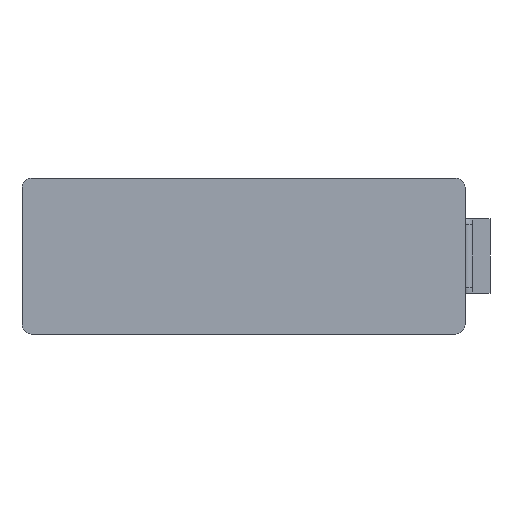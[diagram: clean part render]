
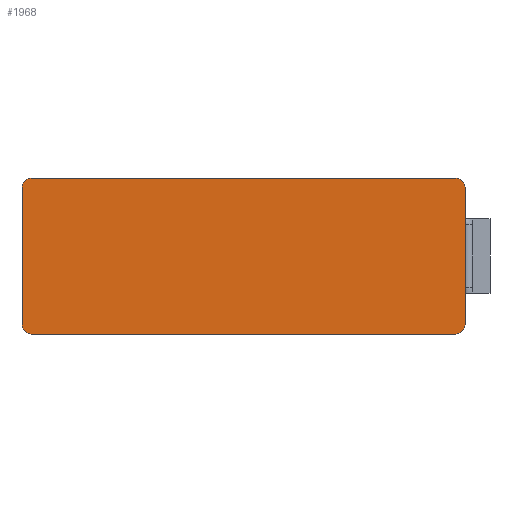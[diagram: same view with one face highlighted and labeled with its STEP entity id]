
A CAD part, front view. The second image highlights one B-rep face of the part: STEP entity #1968.
In plain terms, the highlighted planar face has unit normal (0, -1, 0).
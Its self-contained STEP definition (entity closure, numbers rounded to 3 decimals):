
#100=PLANE('',#2174);
#263=LINE('',#3739,#445);
#270=LINE('',#3761,#452);
#274=LINE('',#3770,#456);
#277=LINE('',#3778,#459);
#445=VECTOR('',#2682,10.);
#452=VECTOR('',#2705,10.);
#456=VECTOR('',#2715,10.);
#459=VECTOR('',#2724,10.);
#613=FACE_OUTER_BOUND('',#737,.T.);
#737=EDGE_LOOP('',(#1834,#1835,#1836,#1837,#1838,#1839,#1840,#1841));
#830=CIRCLE('',#2161,3.);
#831=CIRCLE('',#2164,3.);
#832=CIRCLE('',#2167,3.);
#833=CIRCLE('',#2170,3.);
#993=VERTEX_POINT('',#3736);
#994=VERTEX_POINT('',#3738);
#1000=VERTEX_POINT('',#3756);
#1001=VERTEX_POINT('',#3760);
#1002=VERTEX_POINT('',#3764);
#1003=VERTEX_POINT('',#3768);
#1004=VERTEX_POINT('',#3772);
#1005=VERTEX_POINT('',#3776);
#1259=EDGE_CURVE('',#994,#993,#263,.T.);
#1268=EDGE_CURVE('',#994,#1000,#830,.T.);
#1270=EDGE_CURVE('',#1001,#1000,#270,.T.);
#1273=EDGE_CURVE('',#1002,#993,#831,.T.);
#1275=EDGE_CURVE('',#1002,#1003,#274,.T.);
#1276=EDGE_CURVE('',#1004,#1003,#832,.T.);
#1279=EDGE_CURVE('',#1004,#1005,#277,.T.);
#1283=EDGE_CURVE('',#1001,#1005,#833,.T.);
#1834=ORIENTED_EDGE('',*,*,#1268,.F.);
#1835=ORIENTED_EDGE('',*,*,#1259,.T.);
#1836=ORIENTED_EDGE('',*,*,#1273,.F.);
#1837=ORIENTED_EDGE('',*,*,#1275,.T.);
#1838=ORIENTED_EDGE('',*,*,#1276,.F.);
#1839=ORIENTED_EDGE('',*,*,#1279,.T.);
#1840=ORIENTED_EDGE('',*,*,#1283,.F.);
#1841=ORIENTED_EDGE('',*,*,#1270,.T.);
#1968=ADVANCED_FACE('',(#613),#100,.T.);
#2161=AXIS2_PLACEMENT_3D('',#3757,#2700,#2701);
#2164=AXIS2_PLACEMENT_3D('',#3766,#2710,#2711);
#2167=AXIS2_PLACEMENT_3D('',#3773,#2718,#2719);
#2170=AXIS2_PLACEMENT_3D('',#3785,#2730,#2731);
#2174=AXIS2_PLACEMENT_3D('',#3791,#2740,#2741);
#2682=DIRECTION('',(0.,0.,-1.));
#2700=DIRECTION('center_axis',(0.,1.,0.));
#2701=DIRECTION('ref_axis',(-0.707,0.,0.707));
#2705=DIRECTION('',(-1.,0.,0.));
#2710=DIRECTION('center_axis',(0.,1.,0.));
#2711=DIRECTION('ref_axis',(-0.707,0.,-0.707));
#2715=DIRECTION('',(1.,0.,0.));
#2718=DIRECTION('center_axis',(0.,1.,0.));
#2719=DIRECTION('ref_axis',(0.707,0.,-0.707));
#2724=DIRECTION('',(0.,0.,1.));
#2730=DIRECTION('center_axis',(0.,1.,0.));
#2731=DIRECTION('ref_axis',(0.707,0.,0.707));
#2740=DIRECTION('center_axis',(0.,-1.,0.));
#2741=DIRECTION('ref_axis',(0.,0.,-1.));
#3736=CARTESIAN_POINT('',(-71.,-74.5,-10.));
#3738=CARTESIAN_POINT('',(-71.,-74.5,34.));
#3739=CARTESIAN_POINT('',(-71.,-74.5,-13.));
#3756=CARTESIAN_POINT('',(-68.,-74.5,37.));
#3757=CARTESIAN_POINT('Origin',(-68.,-74.5,34.));
#3760=CARTESIAN_POINT('',(68.,-74.5,37.));
#3761=CARTESIAN_POINT('',(-71.,-74.5,37.));
#3764=CARTESIAN_POINT('',(-68.,-74.5,-13.));
#3766=CARTESIAN_POINT('Origin',(-68.,-74.5,-10.));
#3768=CARTESIAN_POINT('',(68.,-74.5,-13.));
#3770=CARTESIAN_POINT('',(71.,-74.5,-13.));
#3772=CARTESIAN_POINT('',(71.,-74.5,-10.));
#3773=CARTESIAN_POINT('Origin',(68.,-74.5,-10.));
#3776=CARTESIAN_POINT('',(71.,-74.5,34.));
#3778=CARTESIAN_POINT('',(71.,-74.5,37.));
#3785=CARTESIAN_POINT('Origin',(68.,-74.5,34.));
#3791=CARTESIAN_POINT('Origin',(0.,-74.5,12.));
